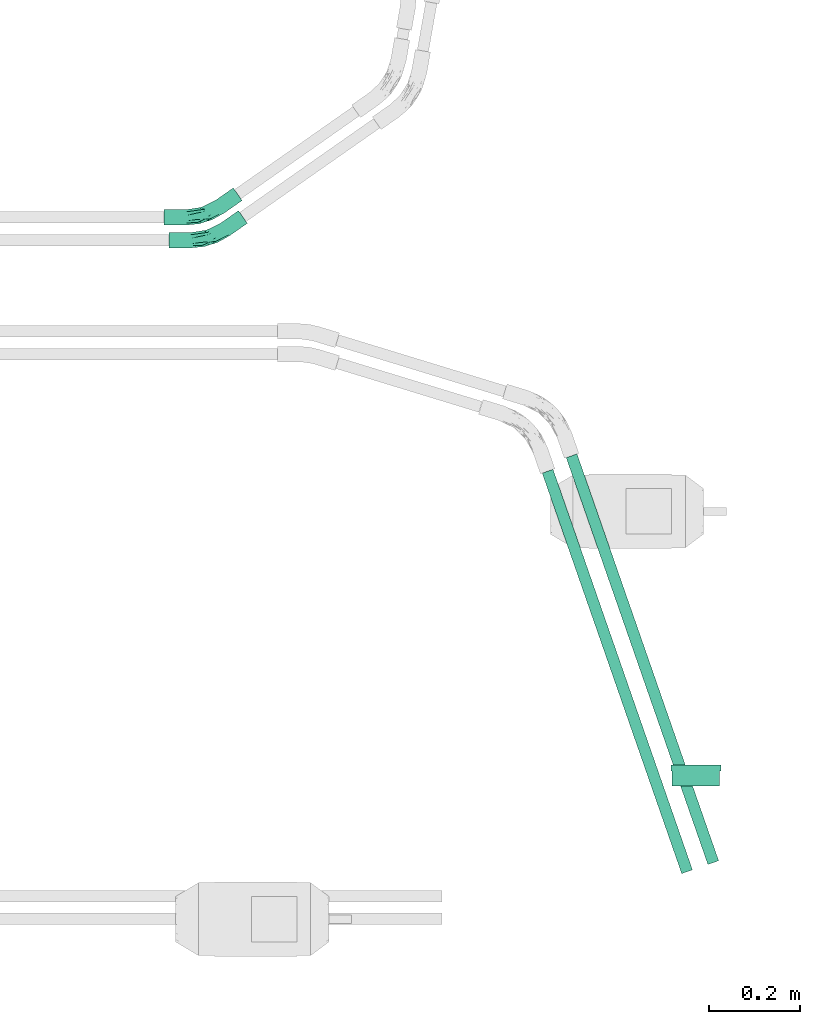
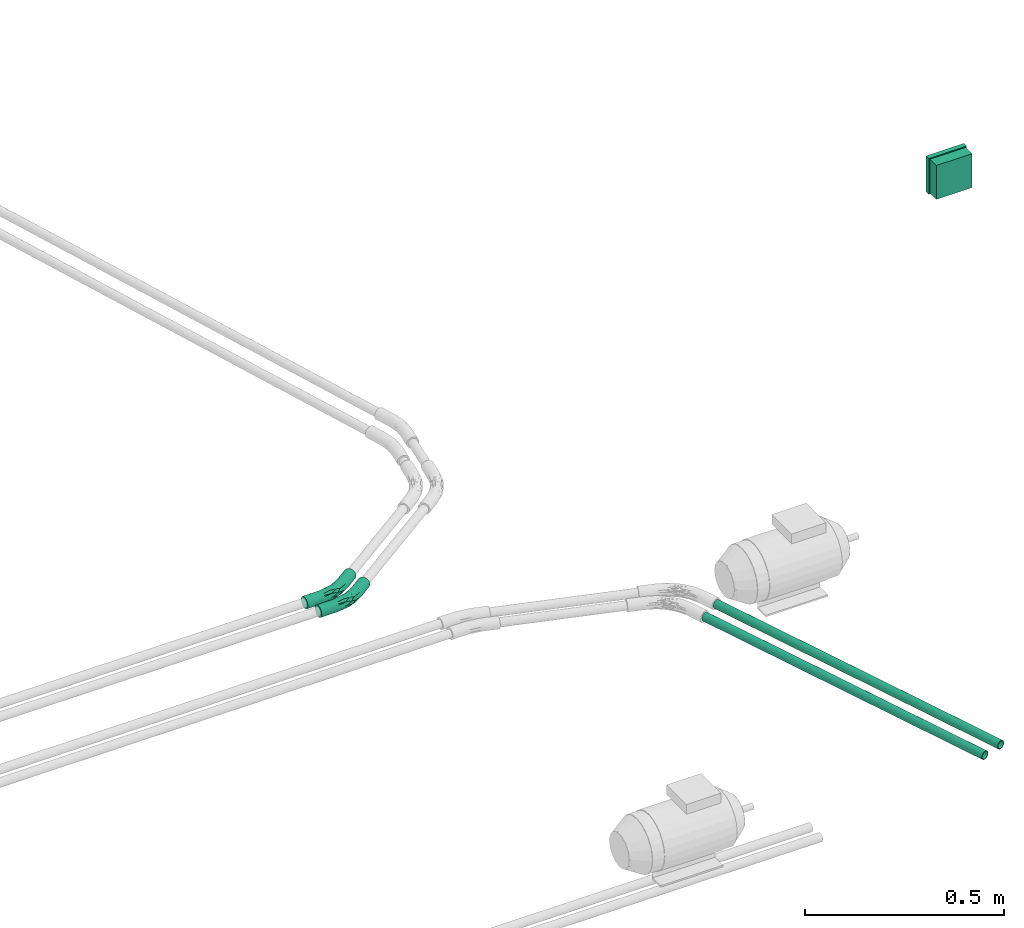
# One storey, part 12 of 22: 3 flow fittings, 2 flow segments.
"""IFC2X3 building model written with IfcOpenShell, lengths in millimetres."""

from ifc_helpers import new_model, entity, si_unit, converted_unit, derived_unit, direction, frame, origin_with_axes, origin_2d_with_axis, place, context, subcontext, project, spatial, hollow_circle, extrude, open_shell, surface_model, source, transform, mapped, type_object, element, save


model = new_model("IFC2X3")

# Units and contexts
model_context = context("Model", 3, precision=0.01, world=frame((0.0, 4.29681676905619e-09, 0.0)), true_north=direction((4.01073788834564e-13, 1.0)))
plan_context = context("Plan", 3, precision=0.01, world=frame((0.0, 4.29681676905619e-09, 0.0)), true_north=direction((4.01073788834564e-13, 1.0)))
body_context = subcontext(model_context, "Body", "Model", "MODEL_VIEW")
ifc_project = project(units=[converted_unit("PLANEANGLEUNIT", "DEGREE", entity("IfcPositiveLengthMeasure", 0.0174532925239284), si_unit("PLANEANGLEUNIT", "RADIAN"), dimensions=[0, 0, 0, 0, 0, 0, 0]), si_unit("AREAUNIT", "SQUARE_METRE"), si_unit("LENGTHUNIT", "METRE", prefix="MILLI"), si_unit("MASSUNIT", "GRAM", prefix="KILO"), si_unit("POWERUNIT", "WATT"), si_unit("PRESSUREUNIT", "PASCAL", prefix="KILO"), si_unit("FORCEUNIT", "NEWTON", prefix="KILO"), si_unit("ELECTRICVOLTAGEUNIT", "VOLT"), si_unit("ELECTRICCURRENTUNIT", "AMPERE"), si_unit("THERMODYNAMICTEMPERATUREUNIT", "DEGREE_CELSIUS"), si_unit("TIMEUNIT", "SECOND"), si_unit("VOLUMEUNIT", "CUBIC_METRE"), derived_unit("LINEARVELOCITYUNIT", [(si_unit("LENGTHUNIT", "METRE"), 1), (si_unit("TIMEUNIT", "SECOND"), -1)]), derived_unit("VOLUMETRICFLOWRATEUNIT", [(si_unit("VOLUMEUNIT", "CUBIC_METRE"), 1), (si_unit("TIMEUNIT", "SECOND"), -1)]), derived_unit("THERMALTRANSMITTANCEUNIT", [(si_unit("POWERUNIT", "WATT"), 1), (si_unit("THERMODYNAMICTEMPERATUREUNIT", "KELVIN"), -1), (si_unit("AREAUNIT", "SQUARE_METRE"), -1)]), derived_unit("SOUNDPRESSUREUNIT", [(si_unit("PRESSUREUNIT", "PASCAL"), 1)])], contexts=[model_context, plan_context])

# Site, building, storey
site_placement = place(None, frame((0.0, -4.29681676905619e-09, 0.0), z_axis=(0.0, 0.0, 1.0), x_axis=(1.0, 0.0, 0.0)))
site = spatial("IfcSite", under=ifc_project, at=site_placement, Name="ENGM", CompositionType="ELEMENT")
building_placement = place(site_placement, frame((0.0, 4.29681676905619e-09, 0.0), z_axis=(0.0, 0.0, 1.0), x_axis=(1.0, 0.0, 0.0)))
building = spatial("IfcBuilding", under=site, at=building_placement, Name="TI", CompositionType="ELEMENT")
storey_placement = place(building_placement, frame((0.0, 0.0, 210900.0), z_axis=(0.0, 0.0, 1.0), x_axis=(1.0, 0.0, 0.0)))
storey = spatial("IfcBuildingStorey", under=building, at=storey_placement, Name="Nivå F", CompositionType="ELEMENT", Elevation=210900.0)

# Flow fittings
cable_carrier_fitting_type = type_object("IfcCableCarrierFittingType", Name="Trekkerør, glatt bend", PredefinedType="BEND")
shared_shape_1 = source(origin_with_axes(), body_context, "Body", "SurfaceModel", [
    surface_model("IfcShellBasedSurfaceModel", [(-88.87066, 8.46055, -14.6541), (-88.87066, 4.3795, -16.34452), (-88.87066, 0.0, -16.92109), (-88.87066, -4.3795, -16.34452), (-88.87066, -8.46055, -14.6541), (-88.87066, -14.6541, -8.46055), (-88.87066, 16.92109, 0.0), (-88.87066, -11.96502, -11.96502), (-88.87066, -11.96502, 11.96502), (-88.87066, 14.6541, -8.46055), (-88.87066, 11.96502, -11.96502), (-88.87066, 16.34452, -4.3795), (-88.87066, -16.34452, -4.3795), (-88.87066, -16.92109, 0.0), (-88.87066, -16.34452, 4.3795), (-88.87066, -14.6541, 8.46055), (-88.87066, 0.0, 16.92109), (-88.87066, -8.46055, 14.6541), (-88.87066, -4.3795, 16.34452), (-88.87066, 14.6541, 8.46055), (-88.87066, 8.46055, 14.6541), (-88.87066, 11.96502, 11.96502), (-88.87066, 16.34452, 4.3795), (-88.87066, 4.3795, 16.34452), (-41.55269, 16.34452, 4.3795), (-41.55269, 16.92109, 0.0), (-41.55269, 14.6541, 8.46055), (-41.55269, 8.46055, 14.6541), (-41.55269, 11.96502, 11.96502), (-41.55269, 4.3795, 16.34452), (-41.55269, 0.0, 16.92109), (-41.55269, -8.46055, 14.6541), (-41.55269, -4.3795, 16.34452), (-41.55269, -11.96502, 11.96502), (-41.55269, -16.34452, 4.3795), (-41.55269, -14.6541, 8.46055), (-41.55269, -16.92109, 0.0), (-41.55269, -16.34452, -4.3795), (-41.55269, -14.6541, -8.46055), (-41.55269, -8.46055, -14.6541), (-41.55269, -11.96502, -11.96502), (-41.55269, -4.3795, -16.34452), (-41.55269, 0.0, -16.92109), (-41.55269, 8.46055, -14.6541), (-41.55269, 4.3795, -16.34452), (-41.55269, 11.96502, -11.96502), (-41.55269, 16.34452, -4.3795), (-41.55269, 14.6541, -8.46055), (2.90029, 9.19856, 5.38748), (-11.48104, 13.84885, 0.0), (-9.27928, 9.85588, 10.22003), (19.86976, -0.15259, 10.23803), (1.20669, 3.82712, 13.34122), (36.54995, -20.24616, 16.34452), (11.21471, -11.56856, 16.91377), (34.03797, -23.83364, 16.92109), (-1.22017, -3.86989, 16.75881), (-9.97623, 2.91658, 15.59436), (24.66313, -37.22229, 4.3795), (2.41695, -25.3289, 3.24961), (24.33243, -37.69459, 0.0), (38.89074, -16.90317, 14.6541), (40.90082, -14.03247, 11.96502), (-3.83563, -12.16507, 15.68042), (-11.06472, -5.74517, 16.78899), (-12.01933, -13.8649, 13.48391), (31.52599, -27.42112, 16.34452), (7.86439, -19.14087, 14.46607), (29.1852, -30.76412, 14.6541), (-5.93803, -18.83303, 10.39535), (-1.29023, -22.79398, 6.56595), (42.44321, -11.82971, 8.46055), (-21.1026, -18.54685, 2.632), (25.63272, -35.83757, 8.46055), (27.17511, -33.63481, 11.96502), (17.34809, 4.75906, 0.0), (17.57572, -6.73024, 15.60468), (9.01394, -14.11226, 16.50988), (43.4128, -10.44499, 4.3795), (43.74351, -9.97269, 0.0), (-7.01146, -22.2375, 0.0), (-15.82201, -3.04391, -16.91377), (-18.25749, 4.56793, -15.60468), (-1.22017, -3.86989, -16.75881), (13.25424, 2.75109, -10.22003), (-16.36388, 11.27183, -10.23803), (2.90029, 9.19856, -5.38748), (-15.47825, -6.38991, -16.50988), (5.7684, -11.05263, -16.78899), (-3.83563, -12.16507, -15.68042), (-5.93803, -18.83303, -10.39535), (-12.0172, -19.41179, -6.56595), (9.84493, -3.33301, -15.59436), (-17.42088, -11.16845, -14.46607), (1.89307, -18.25147, -13.48391), (1.20669, 3.82712, -13.34122), (-16.50791, -19.36192, -3.24961), (43.4128, -10.44499, -4.3795), (42.44321, -11.82971, -8.46055), (40.90082, -14.03247, -11.96502), (6.6482, -27.29665, -2.632), (24.66313, -37.22229, -4.3795), (38.89074, -16.90317, -14.6541), (36.54995, -20.24616, -16.34452), (25.63272, -35.83757, -8.46055), (27.17511, -33.63481, -11.96502), (31.52599, -27.42112, -16.34452), (29.1852, -30.76412, -14.6541), (34.03797, -23.83364, -16.92109), (70.2866, -54.56159, -16.34452), (72.79858, -50.97411, -16.92109), (75.31056, -47.38664, -16.34452), (67.94581, -57.90459, -14.6541), (63.42374, -64.36276, -4.3795), (64.39334, -62.97805, -8.46055), (65.93572, -60.77528, -11.96502), (82.50412, -37.11316, 0.0), (63.42374, -64.36276, 4.3795), (79.66143, -41.17294, -11.96502), (81.20382, -38.97018, -8.46055), (77.65135, -44.04364, -14.6541), (82.17341, -37.58546, -4.3795), (63.09304, -64.83506, 0.0), (64.39334, -62.97805, 8.46055), (79.66143, -41.17294, 11.96502), (67.94581, -57.90459, 14.6541), (65.93572, -60.77528, 11.96502), (72.79858, -50.97411, 16.92109), (70.2866, -54.56159, 16.34452), (81.20382, -38.97018, 8.46055), (82.17341, -37.58546, 4.3795), (77.65135, -44.04364, 14.6541), (75.31056, -47.38664, 16.34452)], [open_shell([[[0, 1, 2]], [[2, 3, 4]], [[2, 4, 5]], [[2, 5, 6]], [[5, 4, 7]], [[8, 6, 5]], [[0, 9, 10]], [[0, 11, 9]], [[0, 2, 11]], [[6, 11, 2]], [[5, 12, 8]], [[13, 14, 15]], [[13, 15, 8]], [[16, 6, 17]], [[6, 8, 17]], [[16, 17, 18]], [[19, 20, 21]], [[19, 22, 6]], [[20, 16, 23]], [[20, 19, 6]], [[20, 6, 16]], [[12, 13, 8]], [[24, 25, 22]], [[24, 19, 26]], [[27, 28, 20]], [[21, 28, 26]], [[29, 27, 23]], [[6, 22, 25]], [[22, 19, 24]], [[19, 21, 26]], [[21, 20, 28]], [[27, 20, 23]], [[23, 16, 29]], [[16, 30, 29]], [[31, 32, 17]], [[31, 8, 33]], [[34, 35, 14]], [[15, 35, 33]], [[36, 34, 13]], [[30, 18, 32]], [[18, 17, 32]], [[16, 18, 30]], [[17, 8, 31]], [[8, 15, 33]], [[35, 15, 14]], [[14, 13, 34]], [[37, 36, 12]], [[37, 5, 38]], [[39, 40, 4]], [[7, 40, 38]], [[41, 39, 3]], [[13, 12, 36]], [[12, 5, 37]], [[5, 7, 38]], [[7, 4, 40]], [[39, 4, 3]], [[3, 2, 41]], [[2, 42, 41]], [[43, 44, 0]], [[43, 10, 45]], [[46, 47, 11]], [[9, 47, 45]], [[25, 46, 6]], [[42, 1, 44]], [[1, 0, 44]], [[2, 1, 42]], [[0, 10, 43]], [[10, 9, 45]], [[47, 9, 11]], [[11, 6, 46]], [[26, 48, 24]], [[25, 24, 49]], [[50, 26, 28]], [[51, 50, 52]], [[27, 52, 28]], [[52, 50, 28]], [[53, 54, 55]], [[29, 56, 57]], [[29, 30, 56]], [[57, 27, 29]], [[58, 59, 60]], [[52, 61, 62]], [[63, 64, 32]], [[32, 31, 63]], [[65, 31, 33]], [[66, 67, 68]], [[50, 48, 26]], [[69, 65, 33]], [[57, 52, 27]], [[33, 35, 69]], [[70, 69, 35]], [[71, 48, 51]], [[34, 36, 72]], [[69, 73, 74]], [[48, 75, 49]], [[64, 30, 32]], [[53, 61, 76]], [[56, 76, 57]], [[50, 51, 48]], [[54, 64, 77]], [[55, 54, 66]], [[48, 49, 24]], [[57, 76, 52]], [[71, 51, 62]], [[56, 54, 53]], [[78, 79, 75]], [[77, 66, 54]], [[53, 76, 56]], [[56, 64, 54]], [[72, 59, 70]], [[48, 71, 78]], [[60, 59, 80]], [[64, 56, 30]], [[73, 69, 70]], [[63, 65, 67]], [[67, 65, 74]], [[34, 70, 35]], [[73, 70, 58]], [[65, 63, 31]], [[69, 74, 65]], [[77, 64, 63]], [[58, 70, 59]], [[62, 51, 52]], [[75, 48, 78]], [[77, 63, 66]], [[61, 52, 76]], [[80, 59, 72]], [[80, 72, 36]], [[34, 72, 70]], [[63, 67, 66]], [[68, 67, 74]], [[44, 81, 42]], [[44, 82, 83]], [[84, 85, 86]], [[87, 88, 89]], [[90, 91, 38]], [[82, 92, 83]], [[93, 94, 40]], [[94, 90, 40]], [[39, 41, 93]], [[89, 94, 93]], [[45, 85, 95]], [[38, 40, 90]], [[46, 25, 49]], [[37, 96, 36]], [[87, 89, 41]], [[86, 46, 49]], [[43, 45, 95]], [[83, 81, 44]], [[75, 97, 86]], [[85, 45, 47]], [[43, 82, 44]], [[42, 81, 41]], [[87, 41, 81]], [[84, 98, 99]], [[96, 80, 36]], [[92, 82, 95]], [[100, 101, 60]], [[92, 102, 103]], [[85, 84, 95]], [[104, 91, 90]], [[90, 94, 105]], [[87, 81, 88]], [[89, 106, 107]], [[83, 88, 81]], [[37, 91, 96]], [[104, 90, 105]], [[101, 91, 104]], [[88, 106, 89]], [[83, 92, 103]], [[43, 95, 82]], [[84, 99, 95]], [[95, 99, 102]], [[92, 95, 102]], [[83, 103, 108]], [[75, 86, 49]], [[84, 86, 98]], [[97, 75, 79]], [[38, 91, 37]], [[94, 107, 105]], [[98, 86, 97]], [[47, 86, 85]], [[86, 47, 46]], [[88, 83, 108]], [[91, 100, 96]], [[94, 89, 107]], [[88, 108, 106]], [[80, 96, 100]], [[80, 100, 60]], [[101, 100, 91]], [[89, 93, 41]], [[39, 93, 40]], [[109, 110, 111]], [[109, 111, 112]], [[113, 114, 115]], [[112, 113, 115]], [[112, 116, 117]], [[118, 119, 120]], [[111, 120, 116]], [[121, 116, 119]], [[120, 119, 116]], [[116, 112, 111]], [[122, 113, 112]], [[116, 123, 117]], [[123, 116, 124]], [[125, 123, 124]], [[126, 123, 125]], [[125, 127, 128]], [[116, 129, 124]], [[129, 116, 130]], [[131, 132, 124]], [[127, 124, 132]], [[125, 124, 127]], [[117, 122, 112]], [[130, 116, 78]], [[130, 71, 129]], [[131, 124, 61]], [[62, 124, 129]], [[132, 131, 53]], [[79, 78, 116]], [[78, 71, 130]], [[71, 62, 129]], [[62, 61, 124]], [[131, 61, 53]], [[53, 55, 132]], [[55, 127, 132]], [[125, 128, 68]], [[125, 74, 126]], [[117, 123, 58]], [[73, 123, 126]], [[122, 117, 60]], [[127, 66, 128]], [[66, 68, 128]], [[55, 66, 127]], [[68, 74, 125]], [[74, 73, 126]], [[123, 73, 58]], [[58, 60, 117]], [[113, 122, 60]], [[113, 101, 114]], [[106, 109, 112]], [[105, 112, 115]], [[115, 114, 104]], [[101, 104, 114]], [[113, 60, 101]], [[107, 112, 105]], [[106, 112, 107]], [[106, 108, 109]], [[115, 104, 105]], [[108, 110, 109]], [[120, 111, 102]], [[120, 99, 118]], [[121, 119, 97]], [[98, 119, 118]], [[116, 121, 79]], [[110, 103, 111]], [[103, 102, 111]], [[108, 103, 110]], [[102, 99, 120]], [[99, 98, 118]], [[119, 98, 97]], [[97, 79, 121]]])]),
])
for number, where, z_axis, x_axis, name in (
    (1, (600478.02933, 571294.62419, -56.7999999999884), (0.0, 0.0, 1.0), (-0.819152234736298, -0.573576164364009, 0.0), "Trekkerør, glatt bend"),
    (2, (600466.5802, 571344.62419, -56.7999999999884), (0.0, 0.0, 1.0), (-0.819152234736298, -0.573576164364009, 0.0), "Trekkerør, glatt bend"),
):
    element("IfcFlowFitting", number, at=place(storey_placement, frame(where, z_axis=z_axis, x_axis=x_axis)), inside=storey, type_object=cable_carrier_fitting_type, Name=name, context=body_context, shape_type="MappedRepresentation", body=[
        mapped(shared_shape_1, transform((0.0, 0.0, 0.0), scale=1.0)),
    ])
junction_box_type = type_object("IfcJunctionBoxType", Name="Junction box1", PredefinedType="NOTDEFINED")
shared_shape_2 = source(origin_with_axes(), body_context, "Body", "SurfaceModel", [
    surface_model("IfcShellBasedSurfaceModel", [(-55.0, 46.0, 55.0), (-55.0, 32.2, 55.0), (55.0, 32.2, 55.0), (55.0, 46.0, 55.0), (55.0, 46.0, -55.0), (55.0, 32.2, -55.0), (-55.0, 32.2, -55.0), (-55.0, 46.0, -55.0), (-52.0, 32.2, 52.0), (-52.0, 0.0, 52.0), (52.0, 0.0, 52.0), (52.0, 32.2, 52.0), (52.0, 32.2, -52.0), (52.0, 0.0, -52.0), (-52.0, 0.0, -52.0), (-52.0, 32.2, -52.0)], [open_shell([[[0, 1, 2]], [[2, 3, 0]], [[4, 5, 6]], [[6, 7, 4]], [[2, 1, 6]], [[6, 5, 2]], [[3, 2, 5]], [[5, 4, 3]], [[0, 3, 4]], [[4, 7, 0]], [[1, 0, 7]], [[7, 6, 1]], [[8, 9, 10]], [[10, 11, 8]], [[12, 13, 14]], [[14, 15, 12]], [[10, 9, 14]], [[14, 13, 10]], [[11, 10, 13]], [[13, 12, 11]], [[8, 11, 12]], [[12, 15, 8]], [[9, 8, 15]], [[15, 14, 9]]])]),
])
flow_fitting_placement = place(storey_placement, frame((601545.09321, 570096.99829, 1600.0), z_axis=(0.0, 0.0, 1.0), x_axis=(1.0, 0.0, 0.0)))
element("IfcFlowFitting", 3, at=flow_fitting_placement, inside=storey, type_object=junction_box_type, Name="Junction box1", context=body_context, shape_type="MappedRepresentation", body=[
    mapped(shared_shape_2, transform((0.0, 0.0, 0.0), scale=1.0)),
])

# Flow segments
cable_carrier_segment_type = type_object("IfcCableCarrierSegmentType", Name="Trekkerør, korrugert", PredefinedType="CONDUITSEGMENT")
shared_shape_3 = source(origin_with_axes(), body_context, "Body", "SweptSolid", [
    extrude(hollow_circle(Radius=12.5, WallThickness=2.0, at=origin_2d_with_axis()), frame((0.0, 0.0, 0.0), z_axis=(1.0, 0.0, 0.0), x_axis=(0.0, 1.0, 0.0)), (0.0, 0.0, 1.0), 930.8),
])
flow_segment_1_placement = place(storey_placement, frame((601219.7079, 570787.53809, -56.7999999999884), z_axis=(0.0, 0.0, 1.0), x_axis=(0.328832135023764, -0.944388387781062, 0.0)))
element("IfcFlowSegment", 4, at=flow_segment_1_placement, inside=storey, type_object=cable_carrier_segment_type, Name="Trekkerør, korrugert", context=body_context, shape_type="MappedRepresentation", body=[
    mapped(shared_shape_3, transform((0.0, 0.0, 0.0), scale=1.0)),
])
shared_shape_4 = source(origin_with_axes(), body_context, "Body", "SweptSolid", [
    extrude(hollow_circle(Radius=12.5, WallThickness=2.0, at=origin_2d_with_axis()), frame((0.0, 0.0, 0.0), z_axis=(1.0, 0.0, 0.0), x_axis=(0.0, 1.0, 0.0)), (0.0, 0.0, 1.0), 945.5),
])
flow_segment_2_placement = place(storey_placement, frame((601272.34684, 570821.44475, -56.7999999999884), z_axis=(0.0, 0.0, 1.0), x_axis=(0.328832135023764, -0.944388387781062, 0.0)))
element("IfcFlowSegment", 5, at=flow_segment_2_placement, inside=storey, type_object=cable_carrier_segment_type, Name="Trekkerør, korrugert", context=body_context, shape_type="MappedRepresentation", body=[
    mapped(shared_shape_4, transform((0.0, 0.0, 0.0), scale=1.0)),
])

save(model, "model.ifc")
